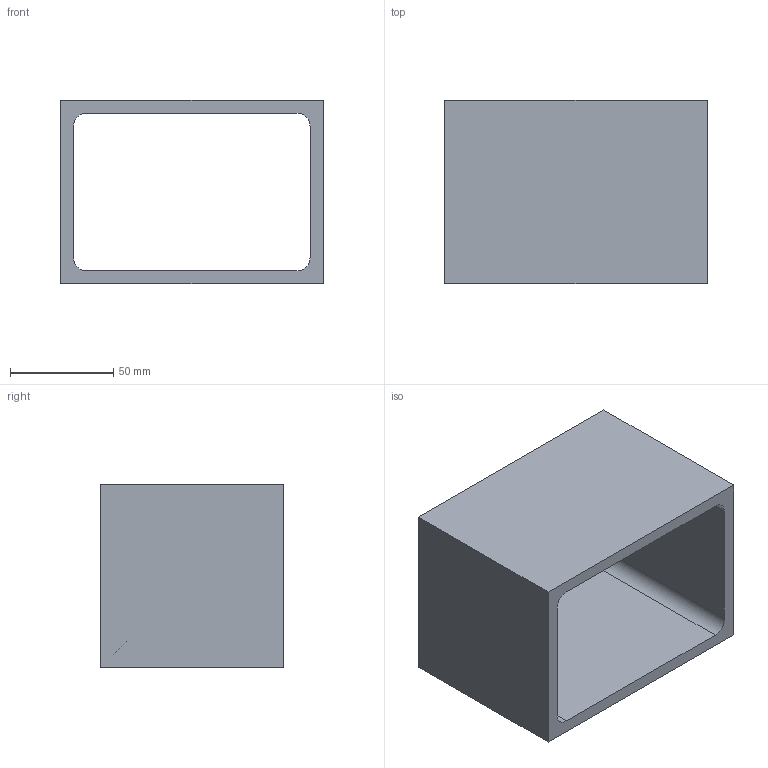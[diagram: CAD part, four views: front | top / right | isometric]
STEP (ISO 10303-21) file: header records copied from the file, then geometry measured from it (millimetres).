
FILE_DESCRIPTION (( 'STEP AP203' ), '1' );
FILE_NAME ('Laser Walls Small.STEP', '2023-09-27T21:18:44', ( '' ), ( '' ), 'SwSTEP 2.0', 'SolidWorks 2023', '' );
FILE_SCHEMA (( 'CONFIG_CONTROL_DESIGN' ));
Length unit declared in the file: inch
Products named in the file (1): Laser Walls Small
Bounding box: 127 x 88.9 x 88.9 mm (x, y, z)
Volume: 229051.9 mm3; surface area: 76509.5 mm2
Topology: 1 solids, 1 shells, 14 faces, 36 edges, 24 vertices
Faces by surface type: plane 10, cylinder 4
Entity records: 511 total; most frequent: CARTESIAN_POINT 75, DIRECTION 74, ORIENTED_EDGE 72, EDGE_CURVE 36, VECTOR 28, LINE 28, VERTEX_POINT 24, AXIS2_PLACEMENT_3D 23
